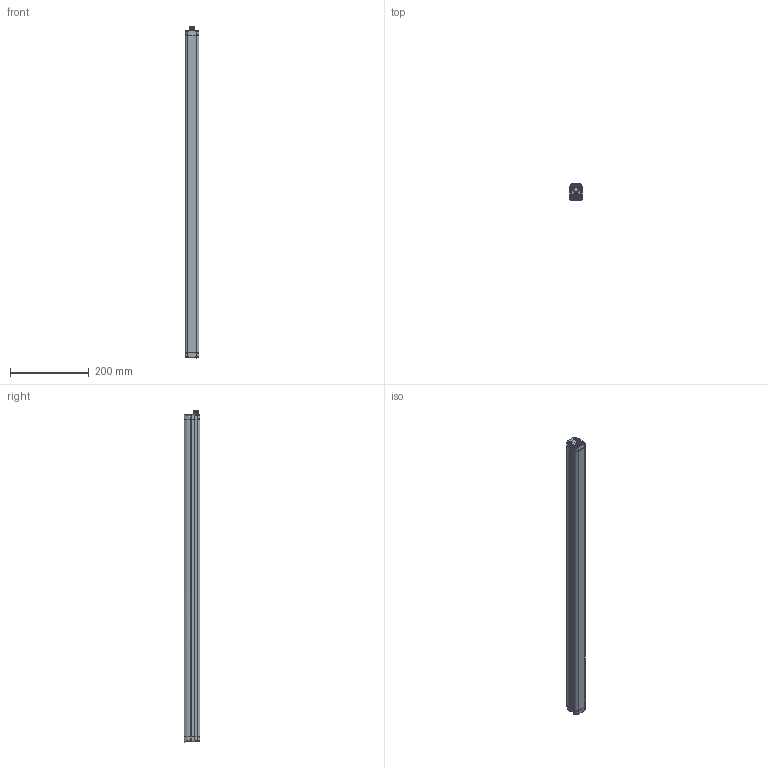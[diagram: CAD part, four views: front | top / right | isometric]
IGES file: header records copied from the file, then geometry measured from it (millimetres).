
Global section: file name: C:\Users\fguttadauro\Desktop\DSD-1021 DS2-05-07-075-JV _TX_IGS.igs; native system: NX V12.0; preprocessor: SIEMENS PLM Software NX 12.0; date: 20200721.130205; units: millimetre
Bounding box: 35 x 40.1 x 844 mm (x, y, z)
Surface area: 174735.3 mm2 (no closed solid volume)
Topology: 0 solids, 0 shells, 1269 faces, 7561 edges, 7411 vertices
Faces by surface type: bspline 1269
